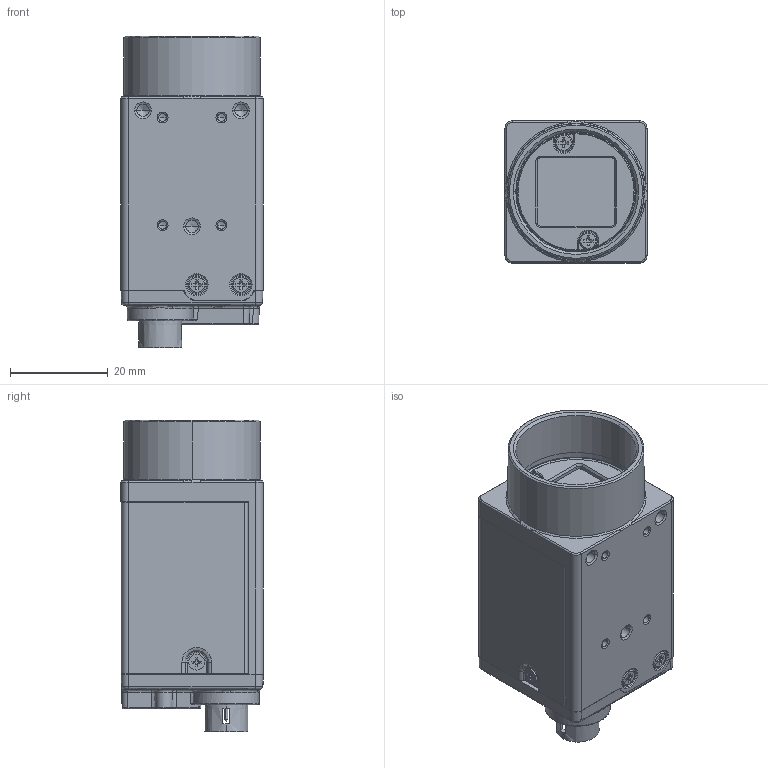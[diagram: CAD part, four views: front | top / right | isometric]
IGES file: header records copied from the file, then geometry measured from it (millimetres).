
Start section:  PTC IGES file: 19-3.igs
Global section: file name: 19-3.igs; native system: Creo Parametric by PTC Inc.; preprocessor: 2020184; author: 21511; organization: Unknown; date: 20231122.162828; units: millimetre
Bounding box: 29 x 29 x 63.6 mm (x, y, z)
Volume: 36105.4 mm3; surface area: 21843.2 mm2
Topology: 1 solids, 13 shells, 2025 faces, 5441 edges, 3432 vertices
Faces by surface type: bspline 1143, revolution 833, extrusion 49
